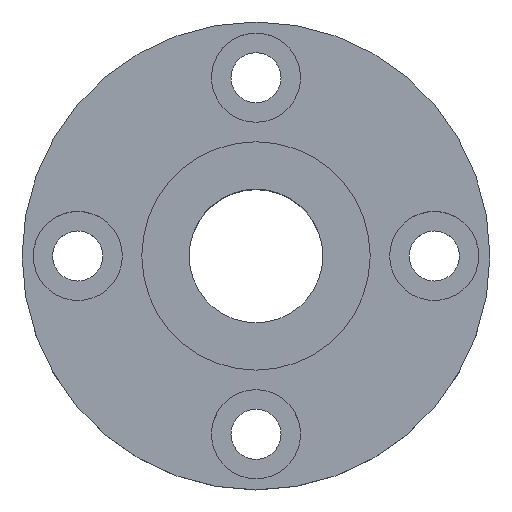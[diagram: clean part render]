
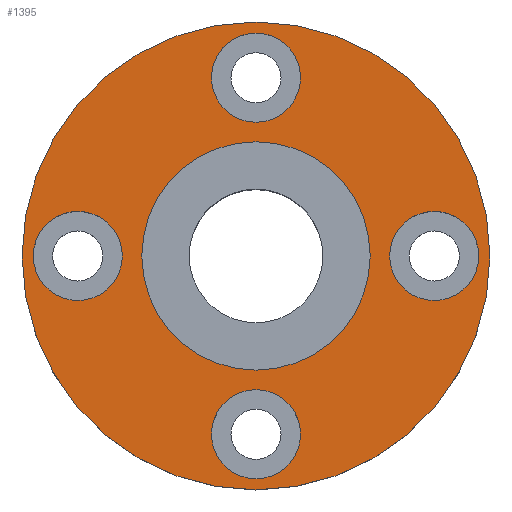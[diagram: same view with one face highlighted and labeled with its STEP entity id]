
A CAD part, top view. The second image highlights one B-rep face of the part: STEP entity #1395.
In plain terms, the highlighted planar face has unit normal (0, 0, 1).
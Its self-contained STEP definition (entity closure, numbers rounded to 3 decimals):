
#133=CARTESIAN_POINT('',(-10.25,0.,16.0));
#134=VERTEX_POINT('',#133);
#143=CARTESIAN_POINT('',(10.25,0.,16.0));
#144=VERTEX_POINT('',#143);
#145=CARTESIAN_POINT('',(0.0,0.0,16.0));
#146=DIRECTION('',(0.0,0.0,-1.0));
#147=DIRECTION('',(-1.0,0.0,0.0));
#148=AXIS2_PLACEMENT_3D('',#145,#146,#147);
#149=CIRCLE('',#148,10.25);
#150=EDGE_CURVE('',#144,#134,#149,.T.);
#217=CARTESIAN_POINT('',(-21.0,0.,16.0));
#218=VERTEX_POINT('',#217);
#227=CARTESIAN_POINT('',(21.0,0.,16.0));
#228=VERTEX_POINT('',#227);
#229=CARTESIAN_POINT('',(0.0,0.0,16.0));
#230=DIRECTION('',(0.0,0.0,-1.0));
#231=DIRECTION('',(-1.0,0.0,0.0));
#232=AXIS2_PLACEMENT_3D('',#229,#230,#231);
#233=CIRCLE('',#232,21.0);
#234=EDGE_CURVE('',#218,#228,#233,.T.);
#345=CARTESIAN_POINT('',(20.0,0.0,16.0));
#346=VERTEX_POINT('',#345);
#362=CARTESIAN_POINT('',(12.0,0.,16.0));
#363=VERTEX_POINT('',#362);
#370=CARTESIAN_POINT('',(16.0,0.0,16.0));
#371=DIRECTION('',(0.0,0.0,-1.0));
#372=DIRECTION('',(1.0,0.0,0.0));
#373=AXIS2_PLACEMENT_3D('',#370,#371,#372);
#374=CIRCLE('',#373,4.0);
#375=EDGE_CURVE('',#346,#363,#374,.T.);
#471=CARTESIAN_POINT('',(0.,20.0,16.0));
#472=VERTEX_POINT('',#471);
#488=CARTESIAN_POINT('',(0.,12.0,16.0));
#489=VERTEX_POINT('',#488);
#496=CARTESIAN_POINT('',(0.,16.0,16.0));
#497=DIRECTION('',(0.0,0.0,-1.0));
#498=DIRECTION('',(0.0,1.0,0.0));
#499=AXIS2_PLACEMENT_3D('',#496,#497,#498);
#500=CIRCLE('',#499,4.0);
#501=EDGE_CURVE('',#472,#489,#500,.T.);
#597=CARTESIAN_POINT('',(-20.0,0.,16.0));
#598=VERTEX_POINT('',#597);
#614=CARTESIAN_POINT('',(-12.0,0.,16.0));
#615=VERTEX_POINT('',#614);
#622=CARTESIAN_POINT('',(-16.0,0.,16.0));
#623=DIRECTION('',(0.0,0.0,-1.0));
#624=DIRECTION('',(-1.0,0.0,0.0));
#625=AXIS2_PLACEMENT_3D('',#622,#623,#624);
#626=CIRCLE('',#625,4.0);
#627=EDGE_CURVE('',#598,#615,#626,.T.);
#723=CARTESIAN_POINT('',(0.,-20.0,16.0));
#724=VERTEX_POINT('',#723);
#740=CARTESIAN_POINT('',(0.,-12.0,16.0));
#741=VERTEX_POINT('',#740);
#748=CARTESIAN_POINT('',(0.,-16.0,16.0));
#749=DIRECTION('',(0.0,0.0,-1.0));
#750=DIRECTION('',(0.0,-1.0,0.0));
#751=AXIS2_PLACEMENT_3D('',#748,#749,#750);
#752=CIRCLE('',#751,4.0);
#753=EDGE_CURVE('',#724,#741,#752,.T.);
#811=CARTESIAN_POINT('',(0.,-16.0,16.0));
#812=DIRECTION('',(0.0,0.0,-1.0));
#813=DIRECTION('',(0.0,-1.0,0.0));
#814=AXIS2_PLACEMENT_3D('',#811,#812,#813);
#815=CIRCLE('',#814,4.0);
#816=EDGE_CURVE('',#741,#724,#815,.T.);
#915=CARTESIAN_POINT('',(-16.0,0.,16.0));
#916=DIRECTION('',(0.0,0.0,-1.0));
#917=DIRECTION('',(-1.0,0.0,0.0));
#918=AXIS2_PLACEMENT_3D('',#915,#916,#917);
#919=CIRCLE('',#918,4.0);
#920=EDGE_CURVE('',#615,#598,#919,.T.);
#1019=CARTESIAN_POINT('',(0.,16.0,16.0));
#1020=DIRECTION('',(0.0,0.0,-1.0));
#1021=DIRECTION('',(0.0,1.0,0.0));
#1022=AXIS2_PLACEMENT_3D('',#1019,#1020,#1021);
#1023=CIRCLE('',#1022,4.0);
#1024=EDGE_CURVE('',#489,#472,#1023,.T.);
#1123=CARTESIAN_POINT('',(16.0,0.0,16.0));
#1124=DIRECTION('',(0.0,0.0,-1.0));
#1125=DIRECTION('',(1.0,0.0,0.0));
#1126=AXIS2_PLACEMENT_3D('',#1123,#1124,#1125);
#1127=CIRCLE('',#1126,4.0);
#1128=EDGE_CURVE('',#363,#346,#1127,.T.);
#1188=CARTESIAN_POINT('',(0.0,0.0,16.0));
#1189=DIRECTION('',(0.0,0.0,-1.0));
#1190=DIRECTION('',(-1.0,0.0,0.0));
#1191=AXIS2_PLACEMENT_3D('',#1188,#1189,#1190);
#1192=CIRCLE('',#1191,21.0);
#1193=EDGE_CURVE('',#228,#218,#1192,.T.);
#1306=CARTESIAN_POINT('',(0.0,0.0,16.0));
#1307=DIRECTION('',(0.0,0.0,-1.0));
#1308=DIRECTION('',(-1.0,0.0,0.0));
#1309=AXIS2_PLACEMENT_3D('',#1306,#1307,#1308);
#1310=CIRCLE('',#1309,10.25);
#1311=EDGE_CURVE('',#134,#144,#1310,.T.);
#1366=CARTESIAN_POINT('',(0.0,0.0,16.0));
#1367=DIRECTION('',(0.0,0.0,-1.0));
#1368=DIRECTION('',(-1.0,0.0,0.0));
#1369=AXIS2_PLACEMENT_3D('',#1366,#1367,#1368);
#1370=PLANE('',#1369);
#1371=ORIENTED_EDGE('',*,*,#1193,.F.);
#1372=ORIENTED_EDGE('',*,*,#234,.F.);
#1373=EDGE_LOOP('',(#1371,#1372));
#1374=FACE_OUTER_BOUND('',#1373,.T.);
#1375=ORIENTED_EDGE('',*,*,#753,.T.);
#1376=ORIENTED_EDGE('',*,*,#816,.T.);
#1377=EDGE_LOOP('',(#1375,#1376));
#1378=FACE_BOUND('',#1377,.T.);
#1379=ORIENTED_EDGE('',*,*,#627,.T.);
#1380=ORIENTED_EDGE('',*,*,#920,.T.);
#1381=EDGE_LOOP('',(#1379,#1380));
#1382=FACE_BOUND('',#1381,.T.);
#1383=ORIENTED_EDGE('',*,*,#501,.T.);
#1384=ORIENTED_EDGE('',*,*,#1024,.T.);
#1385=EDGE_LOOP('',(#1383,#1384));
#1386=FACE_BOUND('',#1385,.T.);
#1387=ORIENTED_EDGE('',*,*,#375,.T.);
#1388=ORIENTED_EDGE('',*,*,#1128,.T.);
#1389=EDGE_LOOP('',(#1387,#1388));
#1390=FACE_BOUND('',#1389,.T.);
#1391=ORIENTED_EDGE('',*,*,#150,.T.);
#1392=ORIENTED_EDGE('',*,*,#1311,.T.);
#1393=EDGE_LOOP('',(#1391,#1392));
#1394=FACE_BOUND('',#1393,.T.);
#1395=ADVANCED_FACE('',(#1374,#1378,#1382,#1386,#1390,#1394),#1370,.F.);
